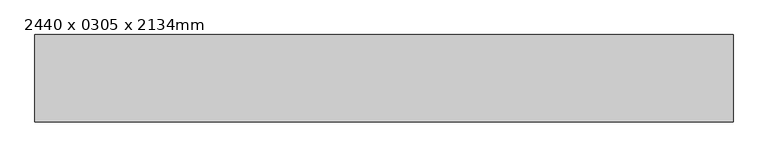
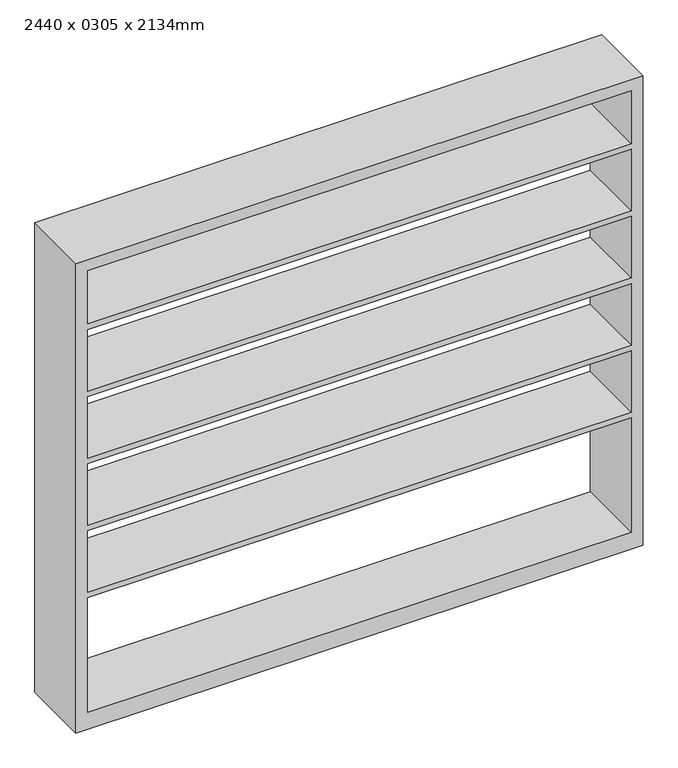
"""IFC4 building model written with IfcOpenShell, lengths in millimetres: furniture geometry, PolicovaSkrin : 2440 x 0305 x 2134mm."""

import ifcopenshell
import ifcopenshell.guid

model = None  # the IFC model being written
_history = None  # IfcOwnerHistory: only IFC2X3 demands one
_inside = {}  # id of a spatial element -> (the spatial element, [elements in it])
_under = {}  # id of a project, library or spatial element -> (it, [spatial elements below it])
_declared = {}  # id of a project -> (the project, [libraries it declares])
_typed = {}  # id of a type object -> (the type object, [elements of that type])
_made_of = {}  # id of a material, layer set ... -> (it, [elements and type objects made of it])


def new_model(schema):
    """Start an empty IFC model of exactly this schema.

    Asked for "IFC4X3", IfcOpenShell would pick the latest addendum, in which some entities
    have other attributes; the version numbers below select the first issue.
    IFC2X3 requires an IfcOwnerHistory on every rooted entity: one is made here for all.
    """
    global model, _history
    if schema == "IFC4X3":
        model = ifcopenshell.file(schema_version=(4, 3, 0, 0))
    else:
        model = ifcopenshell.file(schema=schema)
    _inside.clear()
    _under.clear()
    _declared.clear()
    _typed.clear()
    _made_of.clear()
    _history = None
    if model.schema == "IFC2X3":
        org = make("IfcOrganization", Name="unknown")
        user = make(
            "IfcPersonAndOrganization",
            ThePerson=make("IfcPerson", FamilyName="unknown"),
            TheOrganization=org,
        )
        app = make(
            "IfcApplication",
            ApplicationDeveloper=org,
            Version="unknown",
            ApplicationFullName="unknown",
            ApplicationIdentifier="unknown",
        )
        _history = make(
            "IfcOwnerHistory",
            OwningUser=user,
            OwningApplication=app,
            ChangeAction="ADDED",
            CreationDate=0,
        )
    return model


def make(cls, **values):
    """One entity of the class cls with the attributes given. An attribute that is None is left unset."""
    return model.create_entity(
        cls, **{name: value for name, value in values.items() if value is not None}
    )


def rooted(cls, **values):
    """An entity with a GlobalId (a new one), such as an element, a storey or a relation."""
    return make(cls, GlobalId=ifcopenshell.guid.new(), OwnerHistory=_history, **values)


def si_unit(unit_type, name, prefix=None):
    """IfcSIUnit, for example si_unit("LENGTHUNIT", "METRE", prefix="MILLI")."""
    return make("IfcSIUnit", UnitType=unit_type, Prefix=prefix, Name=name)


def assignment(units):
    """IfcUnitAssignment: the units of a project."""
    return None if units is None else make("IfcUnitAssignment", Units=units)


def point(xyz):
    """IfcCartesianPoint."""
    return None if xyz is None else make("IfcCartesianPoint", Coordinates=xyz)


def direction(xyz):
    """IfcDirection."""
    return None if xyz is None else make("IfcDirection", DirectionRatios=xyz)


def frame(location, z_axis=None, x_axis=None):
    """IfcAxis2Placement3D, a coordinate frame: its origin and axes. An axis left out is left unset."""
    return make(
        "IfcAxis2Placement3D",
        Location=point(location),
        Axis=direction(z_axis),
        RefDirection=direction(x_axis),
    )


def origin():
    """The frame at (0, 0, 0) with its axes left unset."""
    return frame((0.0, 0.0, 0.0))


def place(relative_to, where):
    """IfcLocalPlacement: puts the frame where relative to a parent placement (None: the world)."""
    return make(
        "IfcLocalPlacement", PlacementRelTo=relative_to, RelativePlacement=where
    )


def context(
    kind, dimensions, precision=None, world=None, true_north=None, identifier=None
):
    """IfcGeometricRepresentationContext, for example the 3D "Model" context."""
    return make(
        "IfcGeometricRepresentationContext",
        ContextIdentifier=identifier,
        ContextType=kind,
        CoordinateSpaceDimension=dimensions,
        Precision=precision,
        WorldCoordinateSystem=world,
        TrueNorth=true_north,
    )


def project(units=None, contexts=None):
    """IfcProject with its units and contexts."""
    return rooted(
        "IfcProject",
        Name="project",
        RepresentationContexts=contexts,
        UnitsInContext=assignment(units),
    )


def spatial(cls, under=None, at=None, **own):
    """A site, building, storey or space (cls), placed at a placement, below another one or the project."""
    s = rooted(cls, ObjectPlacement=at, **own)
    if under is not None:
        _under.setdefault(under.id(), (under, []))[1].append(s)
    return s


def polyline(points):
    """IfcPolyline through the points."""
    return make("IfcPolyline", Points=[point(p) for p in points])


def outline(outer, holes=None, kind="AREA"):
    """IfcArbitraryClosedProfileDef: a profile drawn as a closed curve; with holes, ...WithVoids."""
    if holes is None:
        return make("IfcArbitraryClosedProfileDef", ProfileType=kind, OuterCurve=outer)
    return make(
        "IfcArbitraryProfileDefWithVoids",
        ProfileType=kind,
        OuterCurve=outer,
        InnerCurves=holes,
    )


def extrude(swept, where, along, depth):
    """IfcExtrudedAreaSolid: the profile swept, set in the frame where, extruded along a direction by depth."""
    return make(
        "IfcExtrudedAreaSolid",
        SweptArea=swept,
        Position=where,
        ExtrudedDirection=direction(along),
        Depth=depth,
    )


def shape(context_of_items, identifier, shape_type, items):
    """IfcShapeRepresentation: the items that make up one representation, for example the "Body"."""
    return make(
        "IfcShapeRepresentation",
        ContextOfItems=context_of_items,
        RepresentationIdentifier=identifier,
        RepresentationType=shape_type,
        Items=items,
    )


def source(mapping_origin, context_of_items, identifier, shape_type, items):
    """IfcRepresentationMap: a shape defined once, which mapped items show again and again."""
    return make(
        "IfcRepresentationMap",
        MappingOrigin=mapping_origin,
        MappedRepresentation=shape(context_of_items, identifier, shape_type, items),
    )


def transform(
    local_origin,
    x_axis=None,
    y_axis=None,
    z_axis=None,
    scale=None,
    scale2=None,
    scale3=None,
    uniform=True,
):
    """IfcCartesianTransformationOperator3D, or its non-uniform kind. x_axis, y_axis, z_axis: its Axis1, 2, 3."""
    if uniform:
        return make(
            "IfcCartesianTransformationOperator3D",
            Axis1=direction(x_axis),
            Axis2=direction(y_axis),
            LocalOrigin=point(local_origin),
            Scale=scale,
            Axis3=direction(z_axis),
        )
    return make(
        "IfcCartesianTransformationOperator3DnonUniform",
        Axis1=direction(x_axis),
        Axis2=direction(y_axis),
        LocalOrigin=point(local_origin),
        Scale=scale,
        Axis3=direction(z_axis),
        Scale2=scale2,
        Scale3=scale3,
    )


def mapped(mapping_source, mapping_target):
    """IfcMappedItem: shows the shape of a source again, moved by a transform."""
    return make(
        "IfcMappedItem", MappingSource=mapping_source, MappingTarget=mapping_target
    )


def made_of(thing, what):
    """Note that an element or type object is made of a material, layer set ...; save() writes the relation."""
    if what is not None:
        _made_of.setdefault(what.id(), (what, []))[1].append(thing)
    return thing


def element(
    cls,
    number,
    at=None,
    inside=None,
    cuts=None,
    type_object=None,
    material=None,
    context=None,
    identifier="Body",
    shape_type=None,
    held_by="IfcProductDefinitionShape",
    body=None,
    shapes=None,
    **own,
):
    """One element of the class cls, such as IfcWall. Its Tag is "e" and its number.

    at: its placement. inside: the storey or other place that contains it. cuts: it is an
    opening in that element (IfcRelVoidsElement). A single representation is given by context,
    identifier, shape_type and body (its items); several are given by shapes. held_by: the class
    of the entity that holds the representations. save() writes the other relations.
    """
    e = rooted(cls, Tag="e%d" % number, ObjectPlacement=at, **own)
    if body is not None:
        shapes = [shape(context, identifier, shape_type, body)]
    if shapes is not None:
        e.Representation = make(held_by, Representations=shapes)
    if inside is not None:
        _inside.setdefault(inside.id(), (inside, []))[1].append(e)
    if cuts is not None:
        rooted(
            "IfcRelVoidsElement", RelatingBuildingElement=cuts, RelatedOpeningElement=e
        )
    if type_object is not None:
        _typed.setdefault(type_object.id(), (type_object, []))[1].append(e)
    return made_of(e, material)


def aggregate(whole, parts):
    """IfcRelAggregates: a whole, such as a stair, and the parts it consists of."""
    return rooted("IfcRelAggregates", RelatingObject=whole, RelatedObjects=parts)


def save(model, path):
    """Write the relations noted so far, then the file.

    IfcRelAggregates (storeys below a building ...), IfcRelContainedInSpatialStructure (elements
    in a storey), IfcRelDefinesByType, IfcRelAssociatesMaterial and IfcRelDeclares: one each for
    every whole, place, type object, material and project.
    """
    for whole, parts in _under.values():
        aggregate(whole, parts)
    for where, things in _inside.values():
        rooted(
            "IfcRelContainedInSpatialStructure",
            RelatedElements=things,
            RelatingStructure=where,
        )
    for kind, things in _typed.values():
        rooted("IfcRelDefinesByType", RelatedObjects=things, RelatingType=kind)
    for what, things in _made_of.values():
        rooted("IfcRelAssociatesMaterial", RelatedObjects=things, RelatingMaterial=what)
    for by, libraries in _declared.values():
        rooted("IfcRelDeclares", RelatingContext=by, RelatedDefinitions=libraries)
    model.write(path)


def furniture_2440_x_0305_x_2134mm_59c1a9e4(model_context):
    return source(origin(), model_context, "Body", "SweptSolid", [
        extrude(outline(polyline([(0.0, 1220.0), (2134.0, 1220.0), (2134.0, -1220.0), (0.0, -1220.0), (0.0, 1220.0)]), holes=[polyline([(2083.2, 1169.2), (1841.8428571, 1169.2), (1841.8428571, -1169.2), (2083.2, -1169.2), (2083.2, 1169.2)]), polyline([(76.2, 1169.2), (76.2, -1169.2), (597.0142857, -1169.2), (597.0142857, 1169.2), (76.2, 1169.2)]), polyline([(1232.1285714, -1169.2), (1511.5857143, -1169.2), (1511.5857143, 1169.2), (1232.1285714, 1169.2), (1232.1285714, -1169.2)]), polyline([(1816.4428571, 1169.2), (1536.9857143, 1169.2), (1536.9857143, -1169.2), (1816.4428571, -1169.2), (1816.4428571, 1169.2)]), polyline([(1206.7285714, 1169.2), (927.2714286, 1169.2), (927.2714286, -1169.2), (1206.7285714, -1169.2), (1206.7285714, 1169.2)]), polyline([(901.8714286, 1169.2), (622.4142857, 1169.2), (622.4142857, -1169.2), (901.8714286, -1169.2), (901.8714286, 1169.2)])]), frame((0.0, -457.3, 0.0), z_axis=(0.0, 1.0, 0.0), x_axis=(0.0, 0.0, 1.0)), (0.0, 0.0, 1.0), 305.0),
    ])


if __name__ == "__main__":
    model = new_model("IFC4")
    model_context = context("Model", 3, world=origin())
    ifc_project = project(units=[si_unit("LENGTHUNIT", "METRE", prefix="MILLI")], contexts=[model_context])
    site = spatial("IfcSite", under=ifc_project)
    building = spatial("IfcBuilding", under=site)
    placement = place(None, origin())
    furniture_2440_x_0305_x_2134mm_shape = furniture_2440_x_0305_x_2134mm_59c1a9e4(model_context)
    element("IfcFurniture", 1, ObjectType="PolicovaSkrin : 2440 x 0305 x 2134mm", at=placement, inside=building, context=model_context, shape_type="MappedRepresentation", body=[
        mapped(furniture_2440_x_0305_x_2134mm_shape, transform((0.0, 0.0, 0.0), x_axis=(1.0, 0.0, 0.0), y_axis=(0.0, 1.0, 0.0), z_axis=(0.0, 0.0, 1.0))),
    ])
    save(model, "model.ifc")
